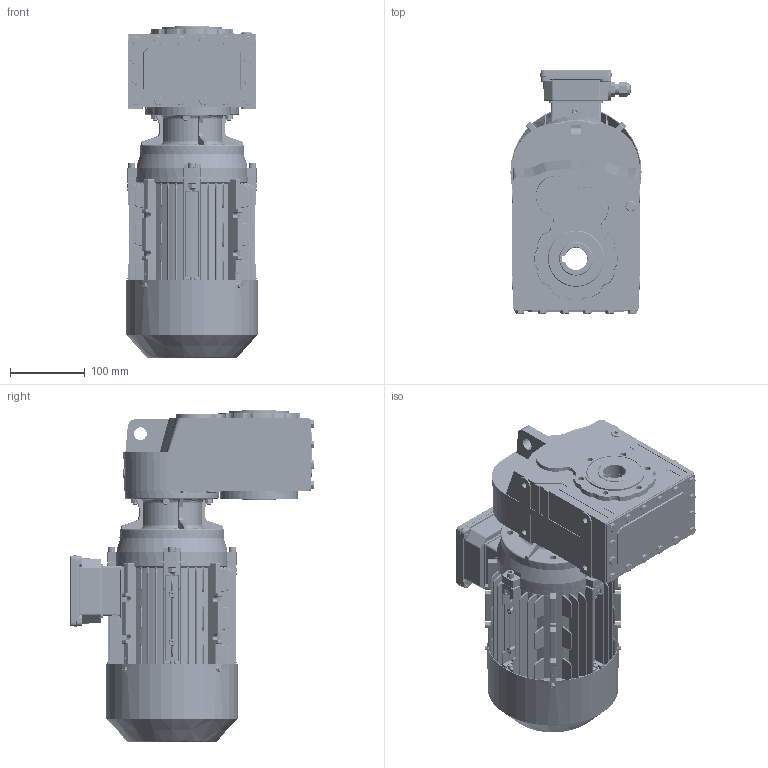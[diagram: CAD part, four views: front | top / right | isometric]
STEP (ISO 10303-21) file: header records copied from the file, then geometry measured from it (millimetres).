
FILE_DESCRIPTION (( 'STEP AP203' ), '1' );
FILE_NAME ('Dv_173_0_MX3-90S.STEP', '2018-11-14T08:33:01', ( '' ), ( '' ), 'SwSTEP 2.0', 'SolidWorks 2012', '' );
FILE_SCHEMA (( 'CONFIG_CONTROL_DESIGN' ));
Products named in the file (28): Dv_173_0_MX3-90S; MX3-90S_B14; hexagon nuts grade c gb_GB_FASTENER_NUT_SNC1 M6-N; IE3 90S flange B14; hexagon socket head cap screws gb_GB_FASTENER_SCREWS_HSHCS M6X30-N; IE3 90S flange; IE3 90S  oil seal; cross recessed pan head screws gb_GB_CROSS_SCREWS_TYPE1 M5X10-10  H type-N; cross recessed pan head screws gb_GB_CROSS_SCREWS_TYPE1 M5X20-20  H type-N; IE3 90L cable glandsM16; circlips for shaft--type b gb_GB_CONNECTING_PIECE_RINGS_CSB 20; hexagon flange head tapping screws gb_GB_SQUARE_AND_HEXAGON_TYPE137 ST3.5X9.5 F-N; cross recessed pan head tapping screws gb_GB_CROSS_SCREWS_TYPE128 ST4.2X9.5 H C-N; hexagon head bolts-full thread gb_GB_FASTENER_BOLT_STBAB A M4X16-N; IE3 90S connection board; IE3 90S terminal box cover; hex nuts, style 1-grades ab gb_GB_FASTENER_NUT_SNAB1 M6-N; spring lock washers--normal type gb_GB_FASTENER_WASHER_SW 6; IE3 90S fan; IE3 90S fan cover; IE3 90S terminal box; plain parallel keys_GB_CONNECTING_PIECE_KEYS_CSK 8X40; ML16A_Varsayìlan; IE3 90S casing; deep groove ball bearings gb_Rolling bearings 6205 GB 276-94; IE3 90S rotor; 0390B14_Varsayìlan; D173_Varsayìlan
Assembly tree (64 placements, depth 3):
  Dv_173_0_MX3-90S
    D173_Varsayìlan
    0390B14_Varsayìlan
    ML16A_Varsayìlan
    MX3-90S_B14
      IE3 90S casing
      IE3 90S rotor
      deep groove ball bearings gb_Rolling bearings 6205 GB 276-94  x2
      IE3 90S fan
      IE3 90S fan cover
      plain parallel keys_GB_CONNECTING_PIECE_KEYS_CSK 8X40
      IE3 90S terminal box
      IE3 90S terminal box cover
      spring lock washers--normal type gb_GB_FASTENER_WASHER_SW 6  x8
      hex nuts, style 1-grades ab gb_GB_FASTENER_NUT_SNAB1 M6-N  x5
      cross recessed pan head tapping screws gb_GB_CROSS_SCREWS_TYPE128 ST4.2X9.5 H C-N  x4
      hexagon flange head tapping screws gb_GB_SQUARE_AND_HEXAGON_TYPE137 ST3.5X9.5 F-N  x4
      IE3 90S connection board
      hexagon head bolts-full thread gb_GB_FASTENER_BOLT_STBAB A M4X16-N  x6
      cross recessed pan head screws gb_GB_CROSS_SCREWS_TYPE1 M5X20-20  H type-N  x2
      cross recessed pan head screws gb_GB_CROSS_SCREWS_TYPE1 M5X10-10  H type-N  x4
      IE3 90L cable glandsM16  x2
      circlips for shaft--type b gb_GB_CONNECTING_PIECE_RINGS_CSB 20
      IE3 90S  oil seal
      IE3 90S flange
      hexagon socket head cap screws gb_GB_FASTENER_SCREWS_HSHCS M6X30-N  x8
      IE3 90S flange B14
      hexagon nuts grade c gb_GB_FASTENER_NUT_SNC1 M6-N  x3
Bounding box: 175.1 x 324.5 x 443 mm (x, y, z)
Volume: 5656995 mm3; surface area: 1097778.4 mm2
Topology: 63 solids, 64 shells, 6104 faces, 15743 edges, 9792 vertices
Faces by surface type: plane 2341, cylinder 1711, bspline 1324, cone 601, sphere 81, torus 46
Entity records: 211432 total; most frequent: CARTESIAN_POINT 90177, ORIENTED_EDGE 26784, DIRECTION 21174, EDGE_CURVE 13392, VERTEX_POINT 8391, AXIS2_PLACEMENT_3D 7614, VECTOR 5946, LINE 5946
